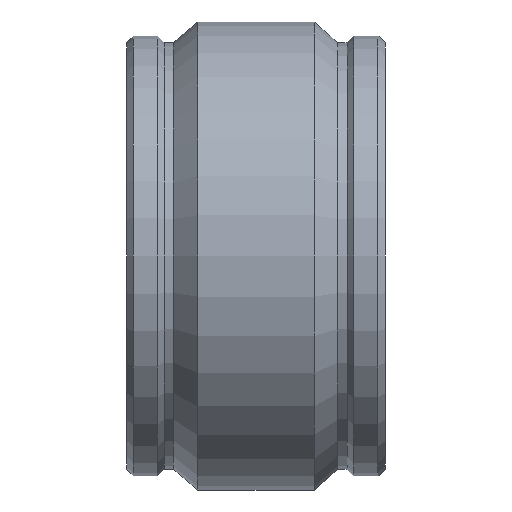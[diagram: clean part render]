
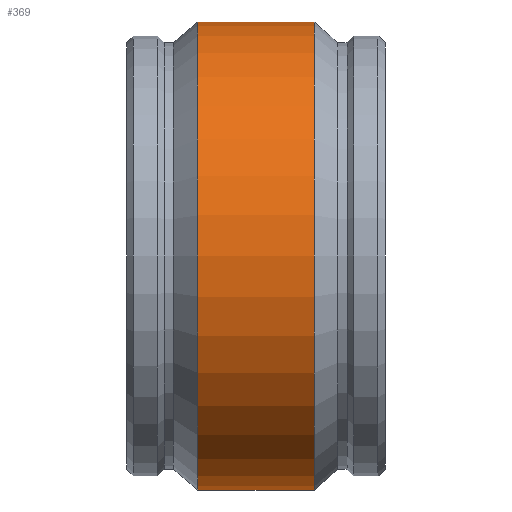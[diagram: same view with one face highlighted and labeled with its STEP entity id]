
A CAD part, front view. The second image highlights one B-rep face of the part: STEP entity #369.
In plain terms, the highlighted cylindrical face has radius 426.466 mm (diameter 852.932 mm), a full revolution.
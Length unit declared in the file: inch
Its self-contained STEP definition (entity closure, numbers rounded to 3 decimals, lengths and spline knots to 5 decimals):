
#17=CYLINDRICAL_SURFACE('',#423,16.79);
#28=LINE('',#646,#44);
#44=VECTOR('',#516,16.79);
#73=FACE_OUTER_BOUND('',#94,.T.);
#94=EDGE_LOOP('',(#281,#282,#283,#284,#285,#286));
#123=CIRCLE('',#421,16.79);
#124=CIRCLE('',#422,16.79);
#125=CIRCLE('',#424,16.79);
#126=CIRCLE('',#425,16.79);
#163=VERTEX_POINT('',#636);
#164=VERTEX_POINT('',#637);
#165=VERTEX_POINT('',#642);
#166=VERTEX_POINT('',#643);
#207=EDGE_CURVE('',#163,#164,#123,.T.);
#208=EDGE_CURVE('',#164,#163,#124,.T.);
#210=EDGE_CURVE('',#165,#166,#125,.T.);
#211=EDGE_CURVE('',#166,#165,#126,.T.);
#212=EDGE_CURVE('',#166,#164,#28,.T.);
#281=ORIENTED_EDGE('',*,*,#210,.F.);
#282=ORIENTED_EDGE('',*,*,#211,.F.);
#283=ORIENTED_EDGE('',*,*,#212,.T.);
#284=ORIENTED_EDGE('',*,*,#208,.T.);
#285=ORIENTED_EDGE('',*,*,#207,.T.);
#286=ORIENTED_EDGE('',*,*,#212,.F.);
#369=ADVANCED_FACE('',(#73),#17,.T.);
#421=AXIS2_PLACEMENT_3D('',#638,#505,#506);
#422=AXIS2_PLACEMENT_3D('',#639,#507,#508);
#423=AXIS2_PLACEMENT_3D('',#641,#510,#511);
#424=AXIS2_PLACEMENT_3D('',#644,#512,#513);
#425=AXIS2_PLACEMENT_3D('',#645,#514,#515);
#505=DIRECTION('center_axis',(1.,0.,0.));
#506=DIRECTION('ref_axis',(0.,0.,-1.));
#507=DIRECTION('center_axis',(1.,0.,0.));
#508=DIRECTION('ref_axis',(0.,0.,-1.));
#510=DIRECTION('center_axis',(1.,0.,0.));
#511=DIRECTION('ref_axis',(0.,1.,0.));
#512=DIRECTION('center_axis',(1.,0.,0.));
#513=DIRECTION('ref_axis',(0.,0.,-1.));
#514=DIRECTION('center_axis',(1.,0.,0.));
#515=DIRECTION('ref_axis',(0.,0.,-1.));
#516=DIRECTION('',(-1.,0.,0.));
#636=CARTESIAN_POINT('',(-4.1805,16.79,0.));
#637=CARTESIAN_POINT('',(-4.1805,-16.79,0.));
#638=CARTESIAN_POINT('Origin',(-4.1805,0.,0.));
#639=CARTESIAN_POINT('Origin',(-4.1805,0.,0.));
#641=CARTESIAN_POINT('Origin',(0.,0.,0.));
#642=CARTESIAN_POINT('',(4.1805,16.79,0.));
#643=CARTESIAN_POINT('',(4.1805,-16.79,0.));
#644=CARTESIAN_POINT('Origin',(4.1805,0.,0.));
#645=CARTESIAN_POINT('Origin',(4.1805,0.,0.));
#646=CARTESIAN_POINT('',(0.,-16.79,0.));
